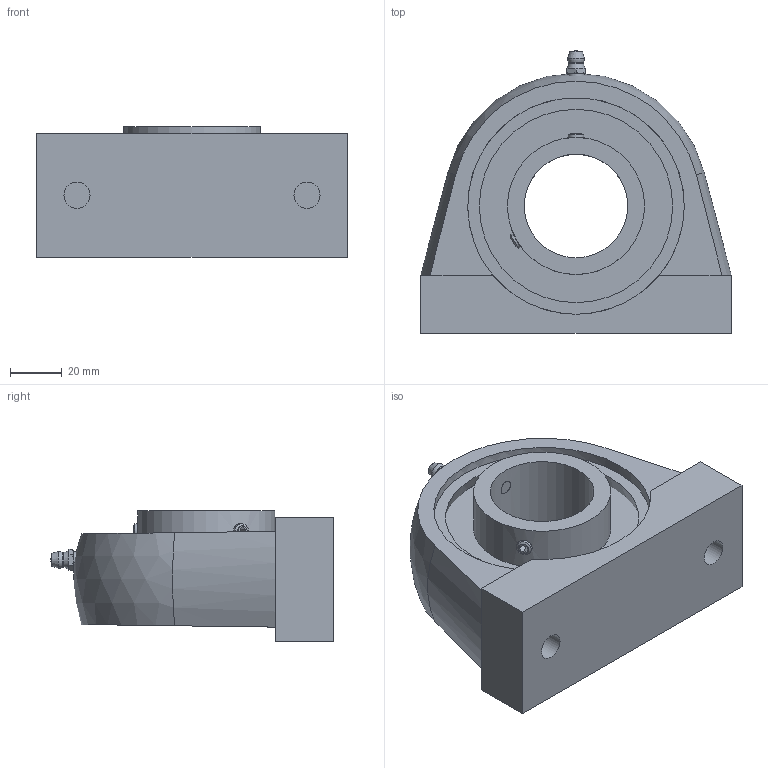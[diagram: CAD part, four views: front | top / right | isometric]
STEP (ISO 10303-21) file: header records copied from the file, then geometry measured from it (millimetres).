
FILE_DESCRIPTION(/* description */ (''),/* implementation_level */ '2;1');
FILE_NAME(/* name */ 'C:\Users\UGijyutu_200702\Desktop\77.プラスチックハウジング\MBTBL200V\MBTBL200V\MBTBL208V.stp',/* time_stamp */ '2024-05-28T11:45:35+09:00',/* author */ ('UGijyutu_200702'),/* organization */ (''),/* preprocessor_version */ 'ST-DEVELOPER v18',/* originating_system */ 'Autodesk Inventor 2020',/* authorisation */ '');
FILE_SCHEMA (('AUTOMOTIVE_DESIGN { 1 0 10303 214 3 1 1 }'));
Length unit declared in the file: millimetre
Products named in the file (4): MBTBL208V; TBL208; MB8 V; 1/4-28UNF-2A
Assembly tree (3 placements, depth 2):
  MBTBL208V
    TBL208
    MB8 V
    1/4-28UNF-2A
Bounding box: 120 x 109.3 x 50.5 mm (x, y, z)
Volume: 273617.4 mm3; surface area: 56567.7 mm2
Topology: 3 solids, 3 shells, 85 faces, 213 edges, 145 vertices
Faces by surface type: plane 46, cylinder 17, cone 15, sphere 5, torus 2
Full cylindrical faces by diameter (mm): 3.2 x1, 5.359 x1, 6 x2, 6.35 x1, 10.106 x2, 40 x1, 53 x1, 83.7 x2
Entity records: 2968 total; most frequent: CARTESIAN_POINT 703, DIRECTION 452, ORIENTED_EDGE 424, EDGE_CURVE 212, AXIS2_PLACEMENT_3D 186, VERTEX_POINT 145, EDGE_LOOP 103, FACE_OUTER_BOUND 85
